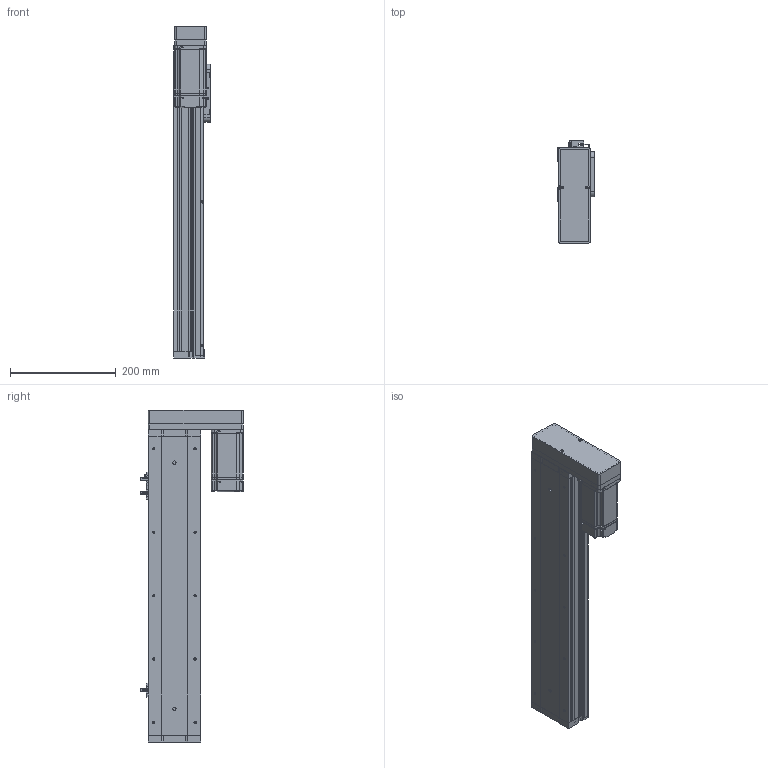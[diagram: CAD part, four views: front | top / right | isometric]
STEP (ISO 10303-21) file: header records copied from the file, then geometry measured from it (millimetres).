
FILE_DESCRIPTION (( 'STEP AP214' ), '1' );
FILE_NAME ('KSD100S-S400-MR-CR.STEP', '2019-09-03T01:09:43', ( '微软用户' ), ( '微软中国' ), 'SwSTEP 2.0', 'SolidWorks 2014', '' );
FILE_SCHEMA (( 'AUTOMOTIVE_DESIGN' ));
Length unit declared in the file: millimetre
Products named in the file (14): KSD100S-S400-MR-CR; MHMD042G1CA_2_03; U倰嫖萇EEㄜSX672; 悵誘欶酘衵殏; 100宽马达安装板连板左右折丝杆; 感应片100宽全封闭; 100宽马达安装板全封闭; 100宽端板全封闭; 100宽滚珠螺姆安装板1防护罩; 100宽滚珠螺姆安装板1; 100遵裔啣揤啣; 100遵裔啣400俴最; 100遵耜啣400俴最佪裝; 100宽底板全封闭400行程丝杆
Assembly tree (17 placements, depth 2):
  KSD100S-S400-MR-CR
    100宽底板全封闭400行程丝杆
    100遵耜啣400俴最佪裝  x2
    100遵裔啣400俴最
    100遵裔啣揤啣  x2
    100宽滚珠螺姆安装板1
    100宽滚珠螺姆安装板1防护罩
    100宽端板全封闭
    100宽马达安装板全封闭
    感应片100宽全封闭
    100宽马达安装板连板左右折丝杆
    悵誘欶酘衵殏
    U倰嫖萇EEㄜSX672  x3
    MHMD042G1CA_2_03
Bounding box: 70 x 193.7 x 628.5 mm (x, y, z)
Volume: 1361656 mm3; surface area: 632571 mm2
Topology: 16 solids, 17 shells, 1577 faces, 4388 edges, 2816 vertices
Faces by surface type: plane 695, cylinder 667, cone 197, bspline 18
Entity records: 52434 total; most frequent: CARTESIAN_POINT 8146, DIRECTION 7503, ORIENTED_EDGE 6956, EDGE_CURVE 3550, AXIS2_PLACEMENT_3D 2665, VERTEX_POINT 2354, VECTOR 2173, LINE 2173
